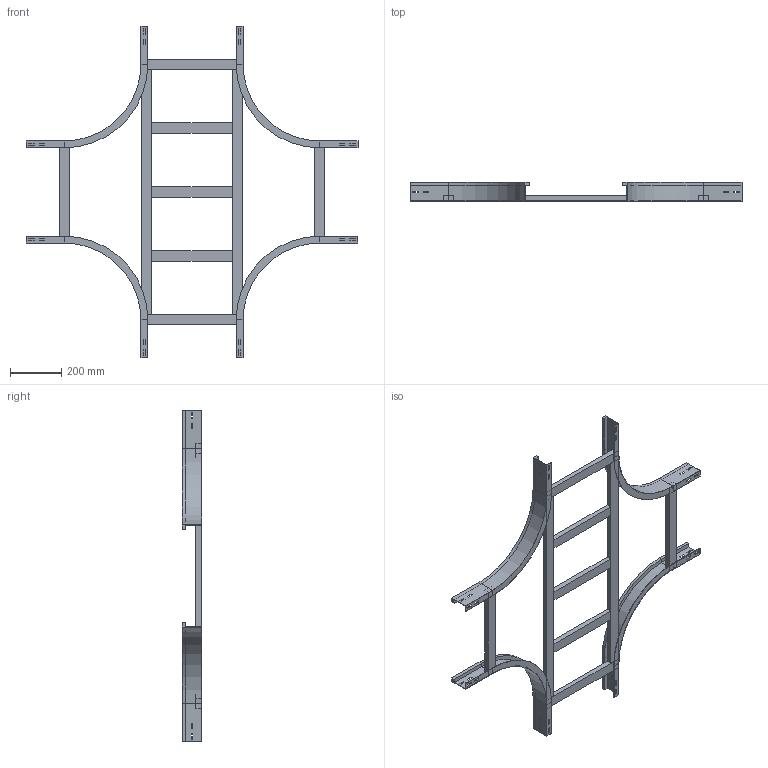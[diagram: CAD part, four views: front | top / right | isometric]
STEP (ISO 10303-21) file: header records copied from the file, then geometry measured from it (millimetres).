
FILE_DESCRIPTION (( 'STEP AP214' ), '1' );
FILE_NAME ('A2_17B3C400.step', '2025-02-21T15:58:34', ( '' ), ( '' ), 'SwSTEP 2.0', 'SolidWorks 2023', '' );
FILE_SCHEMA (( 'AUTOMOTIVE_DESIGN' ));
Length unit declared in the file: millimetre
Products named in the file (5): TRAVERSINO_INTERMEDIO_R300+400; TRAVERSINO_400; A2_17B3C400; A2_LONGH.INTERNO 90°_H75_R300; A2_TRAVERSINO_LONG._R300+400
Assembly tree (13 placements, depth 2):
  A2_17B3C400
    A2_LONGH.INTERNO 90°_H75_R300  x4
    TRAVERSINO_400  x4
    A2_TRAVERSINO_LONG._R300+400  x2
    TRAVERSINO_INTERMEDIO_R300+400  x3
Bounding box: 1300 x 75 x 1300 mm (x, y, z)
Volume: 4819888.1 mm3; surface area: 1286883.6 mm2
Topology: 13 solids, 13 shells, 286 faces, 716 edges, 456 vertices
Faces by surface type: plane 270, cylinder 16
Entity records: 2450 total; most frequent: CARTESIAN_POINT 400, DIRECTION 380, ORIENTED_EDGE 376, EDGE_CURVE 188, LINE 180, VECTOR 180, VERTEX_POINT 120, AXIS2_PLACEMENT_3D 100
